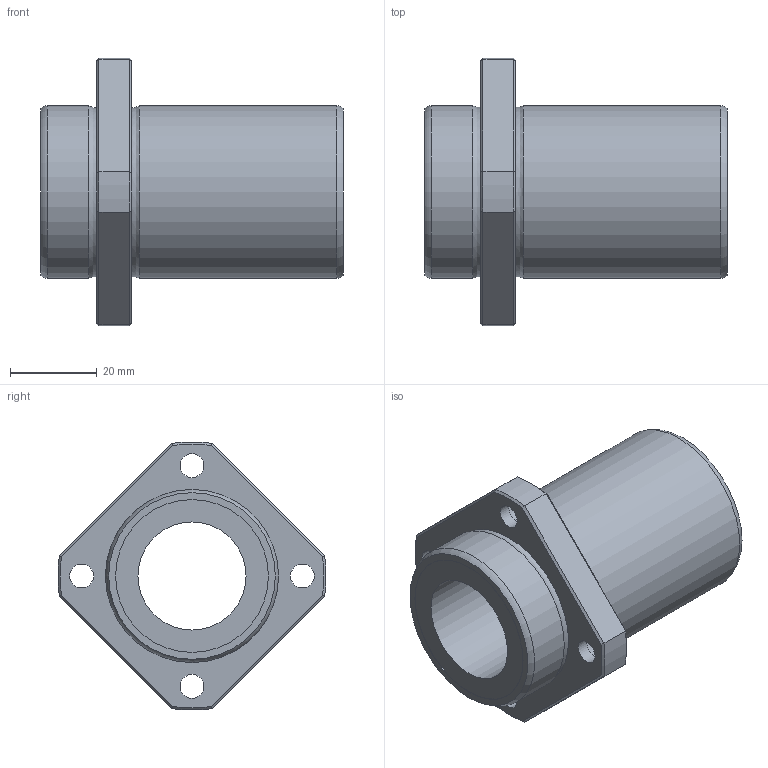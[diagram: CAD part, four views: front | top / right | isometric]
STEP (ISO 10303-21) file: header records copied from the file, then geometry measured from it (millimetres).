
FILE_DESCRIPTION((''),'2;1');
FILE_NAME('C:\Documents and Settings\土屋\My Documents\土屋移動用フォルダ\製品 (図面)\カタログ用3D\変換ファイル\OZAK_3D-CAD(STEP形式)\Part1.-Linear Bearings_ﾘﾆｱﾍﾞｱﾘﾝｸﾞ\09_Maintenance Free_ﾒｲﾝﾃﾅﾝｽﾌﾘｰ\L2017-09-21T13:38:33','2017-09-21T13:38:33',('y'),(''),'Autodesk Inventor 11','Autodesk Inventor 11','');
FILE_SCHEMA(('AUTOMOTIVE_DESIGN { 1 0 10303 214 1 1 1 1 }'));
Length unit declared in the file: millimetre
Products named in the file (1): LFKB-MF
Bounding box: 70 x 61.92 x 61.92 mm (x, y, z)
Volume: 60873.5 mm3; surface area: 19104.2 mm2
Topology: 1 solids, 1 shells, 51 faces, 103 edges, 62 vertices
Faces by surface type: plane 18, bspline 14, cylinder 9, cone 8, torus 2
Full cylindrical faces by diameter (mm): 25 x1, 35.3 x2, 40 x2
Entity records: 1517 total; most frequent: CARTESIAN_POINT 520, DIRECTION 192, ORIENTED_EDGE 172, EDGE_CURVE 86, EDGE_LOOP 86, AXIS2_PLACEMENT_3D 84, VERTEX_POINT 62, FACE_OUTER_BOUND 51
